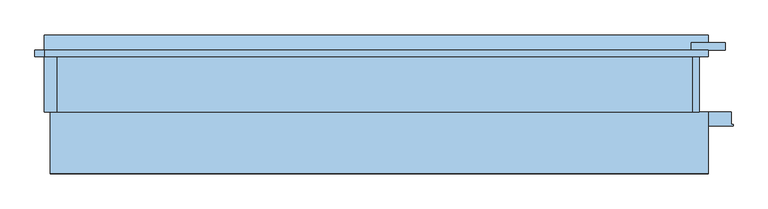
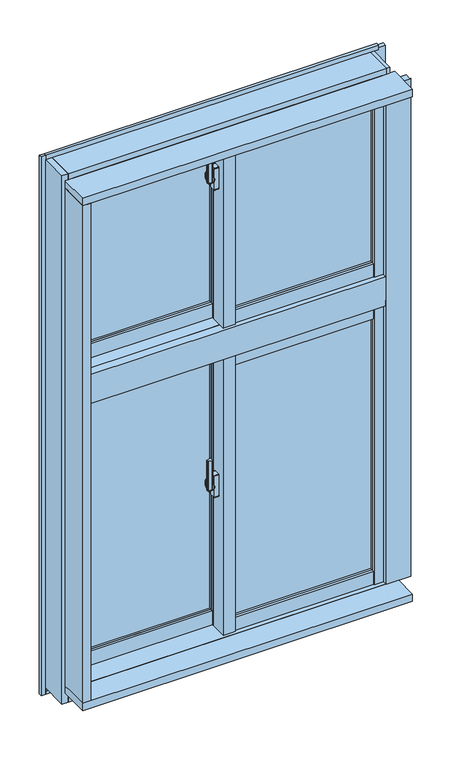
"""IFC4 building model written with IfcOpenShell, lengths in millimetres: window geometry, FNSⅡ100R_非防火_ALC枠_段窓 : 引違/引違."""

from ifc_helpers import new_model, si_unit, point, frame, frame_2d, origin, place, context, project, spatial, polyline, circle_curve, trimmed, segment, composite_curve, outline, extrude, faceted_brep, source, transform, mapped, element, save
from ifc_brep_helpers import plane_surface, cylinder_surface, revolved_surface, advanced_brep


def window_16896372(model_context):
    return source(origin(), model_context, "Body", "SolidModel", [
        extrude(outline(composite_curve([segment(polyline([(-39.0, 14.6), (-39.0, 6.4)]), True, "CONTINUOUS"), segment(trimmed(circle_curve(frame_2d((-41.0, 6.4)), 2.0), [point((-39.0, 6.4))], [point((-41.3606557, 4.4327869))], False, "CARTESIAN"), True, "CONTINUOUS"), segment(polyline([(-41.3606557, 4.4327869), (-52.3606557, 6.4494536)]), True, "CONTINUOUS"), segment(trimmed(circle_curve(frame_2d((-52.0, 8.4166667)), 2.0), [point((-52.3606557, 6.4494536))], [point((-54.0, 8.4166667))], False, "CARTESIAN"), True, "CONTINUOUS"), segment(polyline([(-54.0, 8.4166667), (-54.0, 12.5833333)]), True, "CONTINUOUS"), segment(trimmed(circle_curve(frame_2d((-52.0, 12.5833333)), 2.0), [point((-54.0, 12.5833333))], [point((-52.3606557, 14.5505464))], False, "CARTESIAN"), True, "CONTINUOUS"), segment(polyline([(-52.3606557, 14.5505464), (-41.3606557, 16.5672131)]), True, "CONTINUOUS"), segment(trimmed(circle_curve(frame_2d((-41.0, 14.6)), 2.0), [point((-41.3606557, 16.5672131))], [point((-39.0, 14.6))], False, "CARTESIAN"), True, "CONTINUOUS")], self_intersect=False)), frame((0.0, 0.0, 2440.0), z_axis=(0.0, 0.0, 1.0), x_axis=(1.0, 0.0, 0.0)), (0.0, 0.0, 1.0), 100.0),
        advanced_brep(
        [(-37.5, 18.8234285, 2471.7333311), (-45.5, 18.8234285, 2471.7333311), (-45.5, 18.4351999, 2470.2844424), (-39.0, 18.4351999, 2470.2844424), (-39.0, 16.6234666, 2463.5229616), (-37.5, 16.6234666, 2463.5229616), (-39.0, 16.6466117, 2429.3190372), (-45.5, 16.6466117, 2429.3190372), (-45.5, 16.907084, 2427.8418256), (-37.5, 16.907084, 2427.8418256), (-37.5, 15.4310745, 2436.2126915), (-39.0, 15.4310745, 2436.2126915)],
        [
            (0, 1),
            (1, 2),
            (2, 3),
            (3, 4),
            (4, 5),
            (5, 0),
            (6, 7),
            (7, 8),
            (8, 9),
            (9, 10),
            (10, 11),
            (11, 6),
            (0, 9, circle_curve(frame((-37.5, 13.0, 2450.0), z_axis=(-1.0, 0.0, 0.0), x_axis=(0.0, 0.25881904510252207, 0.965925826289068)), 22.5)),
            (8, 1, circle_curve(frame((-45.5, 13.0, 2450.0), z_axis=(1.0, 0.0, 0.0), x_axis=(0.0, 0.25881904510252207, 0.965925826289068)), 22.5)),
            (7, 2, circle_curve(frame((-45.5, 13.0, 2450.0), z_axis=(1.0, 0.0, 0.0), x_axis=(0.0, 0.25881904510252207, 0.965925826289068)), 21.0)),
            (6, 3, circle_curve(frame((-39.0, 13.0, 2450.0), z_axis=(1.0, 0.0, 0.0), x_axis=(0.0, 0.25881904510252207, 0.965925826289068)), 21.0)),
            (11, 4, circle_curve(frame((-39.0, 13.0, 2450.0), z_axis=(-1.0, 0.0, 0.0), x_axis=(0.0, -1.0, 0.0)), 14.0)),
            (5, 10, circle_curve(frame((-37.5, 13.0, 2450.0), z_axis=(1.0, 0.0, 0.0), x_axis=(0.0, -1.0, 0.0)), 14.0)),
        ],
        [
            plane_surface(frame((-43.5470497, 13.0, 2450.0), z_axis=(0.0, -0.965925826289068, 0.25881904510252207), x_axis=(0.0, 0.25881904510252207, 0.965925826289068))),
            plane_surface(frame((-43.5470497, 13.0, 2450.0), z_axis=(0.0, -0.9848077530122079, -0.17364817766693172), x_axis=(0.0, 0.17364817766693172, -0.9848077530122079))),
            cylinder_surface(frame((-43.5470497, 13.0, 2450.0), z_axis=(-1.0, 0.0, 0.0), x_axis=(0.0, 0.25881904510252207, 0.965925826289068)), 22.5),
            plane_surface(frame((-45.5, 13.0, 2450.0), z_axis=(-1.0, 0.0, 0.0), x_axis=(0.0, 0.25881904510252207, 0.965925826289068))),
            revolved_surface(polyline([(-45.5, 18.435199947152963, 2470.2844423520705), (-39.0, 18.435199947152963, 2470.2844423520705)]), (-43.5470497, 13.0, 2450.0), (-1.0, 0.0, 0.0)),
            plane_surface(frame((-39.0, 13.0, 2450.0), z_axis=(-1.0, 0.0, 0.0), x_axis=(0.0, 0.25881904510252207, 0.965925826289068))),
            plane_surface(frame((-37.5, 13.0, 2450.0), z_axis=(1.0, 0.0, 0.0), x_axis=(0.0, 0.25881904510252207, 0.965925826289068))),
            cylinder_surface(frame((-37.5, 13.0, 2450.0), z_axis=(-1.0, 0.0, 0.0), x_axis=(0.0, -1.0, 0.0)), 14.0),
        ],
        [
            (0, [[1, 2, 3, 4, 5, 6]]),
            (1, [[7, 8, 9, 10, 11, 12]]),
            (2, [[-1, 13, -9, 14]]),
            (3, [[-2, -14, -8, 15]]),
            (4, [[-3, -15, -7, 16]]),
            (5, [[-16, -12, 17, -4]]),
            (6, [[-13, -6, 18, -10]]),
            (7, [[-17, -11, -18, -5]]),
        ],
    ),
        extrude(outline(composite_curve([segment(trimmed(circle_curve(frame_2d((13.0, 2450.0)), 11.5), [point((24.5, 2450.0))], [point((1.5, 2450.0))], False, "CARTESIAN"), True, "CONTINUOUS"), segment(trimmed(circle_curve(frame_2d((13.0, 2450.0)), 11.5), [point((1.5, 2450.0))], [point((24.5, 2450.0))], False, "CARTESIAN"), True, "CONTINUOUS")], self_intersect=False)), frame((-37.5, 0.0, 0.0), z_axis=(1.0, 0.0, 0.0), x_axis=(0.0, 1.0, 0.0)), (0.0, 0.0, 1.0), 2.5),
        extrude(outline(composite_curve([segment(polyline([(4.0, 2487.5), (22.0, 2487.5)]), True, "CONTINUOUS"), segment(trimmed(circle_curve(frame_2d((22.0, 2485.5)), 2.0), [point((22.0, 2487.5))], [point((24.0, 2485.5))], False, "CARTESIAN"), True, "CONTINUOUS"), segment(polyline([(24.0, 2485.5), (24.0, 2414.5)]), True, "CONTINUOUS"), segment(trimmed(circle_curve(frame_2d((22.0, 2414.5)), 2.0), [point((24.0, 2414.5))], [point((22.0, 2412.5))], False, "CARTESIAN"), True, "CONTINUOUS"), segment(polyline([(22.0, 2412.5), (4.0, 2412.5)]), True, "CONTINUOUS"), segment(trimmed(circle_curve(frame_2d((4.0, 2414.5)), 2.0), [point((4.0, 2412.5))], [point((2.0, 2414.5))], False, "CARTESIAN"), True, "CONTINUOUS"), segment(polyline([(2.0, 2414.5), (2.0, 2485.5)]), True, "CONTINUOUS"), segment(trimmed(circle_curve(frame_2d((4.0, 2485.5)), 2.0), [point((2.0, 2485.5))], [point((4.0, 2487.5))], False, "CARTESIAN"), True, "CONTINUOUS")], self_intersect=False)), frame((-35.0, 0.0, 0.0), z_axis=(1.0, 0.0, 0.0), x_axis=(0.0, 1.0, 0.0)), (0.0, 0.0, 1.0), 15.0),
        extrude(outline(polyline([(20.0, 4.0), (468.0, 4.0), (468.0, -2.0), (20.0, -2.0), (20.0, 4.0)])), frame((0.0, 0.0, 1998.0), z_axis=(0.0, 0.0, 1.0), x_axis=(1.0, 0.0, 0.0)), (0.0, 0.0, 1.0), 562.0),
        extrude(outline(polyline([(20.0, 22.0), (468.0, 22.0), (468.0, 16.0), (20.0, 16.0), (20.0, 22.0)])), frame((0.0, 0.0, 1998.0), z_axis=(0.0, 0.0, 1.0), x_axis=(1.0, 0.0, 0.0)), (0.0, 0.0, 1.0), 562.0),
        extrude(outline(polyline([(-468.0, 62.0), (-20.0, 62.0), (-20.0, 56.0), (-468.0, 56.0), (-468.0, 62.0)])), frame((0.0, 0.0, 1998.0), z_axis=(0.0, 0.0, 1.0), x_axis=(1.0, 0.0, 0.0)), (0.0, 0.0, 1.0), 562.0),
        extrude(outline(polyline([(-468.0, 80.0), (-20.0, 80.0), (-20.0, 74.0), (-468.0, 74.0), (-468.0, 80.0)])), frame((0.0, 0.0, 1998.0), z_axis=(0.0, 0.0, 1.0), x_axis=(1.0, 0.0, 0.0)), (0.0, 0.0, 1.0), 562.0),
        faceted_brep([(-500.0, 59.0, 2600.0), (-489.5, 59.0, 2600.0), (-489.5, 46.0, 2600.0), (-468.0, 46.0, 2600.0), (-468.0, 88.0, 2600.0), (-500.0, 88.0, 2600.0), (-468.0, 59.0, 1910.0), (-500.0, 59.0, 1910.0), (-500.0, 88.0, 1910.0), (-468.0, 88.0, 1910.0), (-468.0, 59.0, 1950.0), (-489.5, 59.0, 1950.0), (-489.5, 46.0, 1950.0), (-468.0, 46.0, 1950.0)], [[[0, 1, 2, 3, 4, 5]], [[6, 7, 8, 9]], [[1, 0, 7, 6, 10, 11]], [[2, 1, 11, 12]], [[3, 2, 12, 13]], [[4, 3, 13, 10, 6, 9]], [[5, 4, 9, 8]], [[7, 0, 5, 8]], [[11, 10, 13, 12]]]),
        faceted_brep([(-20.0, 45.5, 2600.0), (-1.8, 45.5, 2600.0), (-1.8, 33.1, 2600.0), (20.0, 33.1, 2600.0), (20.0, 88.0, 2600.0), (-20.0, 88.0, 2600.0), (-20.0, 88.0, 1910.0), (20.0, 88.0, 1910.0), (20.0, 59.0, 1910.0), (-20.0, 59.0, 1910.0), (-20.0, 45.5, 1950.0), (-1.8, 45.5, 1950.0), (-1.8, 33.1, 1950.0), (20.0, 33.1, 1950.0), (20.0, 59.0, 1950.0), (-20.0, 59.0, 1950.0)], [[[0, 1, 2, 3, 4, 5]], [[6, 7, 8, 9]], [[1, 0, 10, 11]], [[2, 1, 11, 12]], [[3, 2, 12, 13]], [[4, 3, 13, 14, 8, 7]], [[5, 4, 7, 6]], [[0, 5, 6, 9, 15, 10]], [[14, 15, 9, 8]], [[15, 14, 13, 12, 11, 10]]]),
        extrude(outline(polyline([(-20.0, 33.1), (-15.0, 33.1), (-15.0, -12.0), (15.0, -12.0), (15.0, -8.0), (20.0, -8.0), (20.0, -20.0), (-20.0, -20.0), (-20.0, 33.1)])), frame((0.0, 0.0, 1950.0), z_axis=(0.0, 0.0, 1.0), x_axis=(1.0, 0.0, 0.0)), (0.0, 0.0, 1.0), 650.0),
        extrude(outline(polyline([(-15.0, 33.1), (20.0, 33.1), (20.0, -8.0), (15.0, -8.0), (15.0, -12.0), (-15.0, -12.0), (-15.0, 33.1)])), frame((0.0, 0.0, 1950.0), z_axis=(0.0, 0.0, 1.0), x_axis=(1.0, 0.0, 0.0)), (0.0, 0.0, 1.0), 650.0),
        extrude(outline(polyline([(468.0, -20.0), (468.0, -12.0), (489.5, -12.0), (489.5, 1.0), (497.0, 1.0), (497.0, -20.0), (468.0, -20.0)])), frame((0.0, 0.0, 1953.0), z_axis=(0.0, 0.0, 1.0), x_axis=(1.0, 0.0, 0.0)), (0.0, 0.0, 1.0), 647.0),
        extrude(outline(polyline([(468.0, 30.0), (500.0, 30.0), (500.0, 1.0), (489.5, 1.0), (489.5, -12.0), (468.0, -12.0), (468.0, 30.0)])), frame((0.0, 0.0, 1950.0), z_axis=(0.0, 0.0, 1.0), x_axis=(1.0, 0.0, 0.0)), (0.0, 0.0, 1.0), 650.0),
        extrude(outline(polyline([(-1.85, 45.5), (-1.85, 38.0), (-20.0, 38.0), (-20.0, 45.5), (-1.85, 45.5)])), frame((0.0, 0.0, 1950.0), z_axis=(0.0, 0.0, 1.0), x_axis=(1.0, 0.0, 0.0)), (0.0, 0.0, 1.0), 650.0),
        extrude(outline(polyline([(-497.0, 59.0), (-489.5, 59.0), (-489.5, 46.0), (-468.0, 46.0), (-468.0, 38.0), (-497.0, 38.0), (-497.0, 59.0)])), frame((0.0, 0.0, 1950.0), z_axis=(0.0, 0.0, 1.0), x_axis=(1.0, 0.0, 0.0)), (0.0, 0.0, 1.0), 650.0),
        extrude(outline(polyline([(-18.0, 1953.0), (-18.0, 1998.0), (-10.0, 1998.0), (-10.0, 1975.5), (1.0, 1975.5), (1.0, 1953.0), (-18.0, 1953.0)])), frame((20.0, 0.0, 0.0), z_axis=(1.0, 0.0, 0.0), x_axis=(0.0, 1.0, 0.0)), (0.0, 0.0, 1.0), 448.0),
        extrude(outline(polyline([(30.0, 1950.0), (1.0, 1950.0), (1.0, 1975.5), (-10.0, 1975.5), (-10.0, 1998.0), (30.0, 1998.0), (30.0, 1950.0)])), frame((20.0, 0.0, 0.0), z_axis=(1.0, 0.0, 0.0), x_axis=(0.0, 1.0, 0.0)), (0.0, 0.0, 1.0), 448.0),
        extrude(outline(polyline([(40.0, 1998.0), (48.0, 1998.0), (48.0, 1975.5), (59.0, 1975.5), (59.0, 1950.0), (40.0, 1950.0), (40.0, 1998.0)])), frame((-468.0, 0.0, 0.0), z_axis=(1.0, 0.0, 0.0), x_axis=(0.0, 1.0, 0.0)), (0.0, 0.0, 1.0), 448.0),
        extrude(outline(polyline([(88.0, 1910.0), (59.0, 1910.0), (59.0, 1975.5), (48.0, 1975.5), (48.0, 1998.0), (88.0, 1998.0), (88.0, 1910.0)])), frame((-468.0, 0.0, 0.0), z_axis=(1.0, 0.0, 0.0), x_axis=(0.0, 1.0, 0.0)), (0.0, 0.0, 1.0), 448.0),
        extrude(outline(polyline([(3.0, 2580.5), (-10.0, 2580.5), (-10.0, 2560.0), (-18.0, 2560.0), (-18.0, 2600.0), (3.0, 2600.0), (3.0, 2580.5)])), frame((20.0, 0.0, 0.0), z_axis=(1.0, 0.0, 0.0), x_axis=(0.0, 1.0, 0.0)), (0.0, 0.0, 1.0), 448.0),
        extrude(outline(polyline([(30.0, 2600.0), (30.0, 2560.0), (-10.0, 2560.0), (-10.0, 2580.5), (3.0, 2580.5), (3.0, 2600.0), (30.0, 2600.0)])), frame((20.0, 0.0, 0.0), z_axis=(1.0, 0.0, 0.0), x_axis=(0.0, 1.0, 0.0)), (0.0, 0.0, 1.0), 448.0),
        extrude(outline(polyline([(61.0, 2580.5), (48.0, 2580.5), (48.0, 2560.0), (40.0, 2560.0), (40.0, 2600.0), (61.0, 2600.0), (61.0, 2580.5)])), frame((-468.0, 0.0, 0.0), z_axis=(1.0, 0.0, 0.0), x_axis=(0.0, 1.0, 0.0)), (0.0, 0.0, 1.0), 448.0),
        extrude(outline(polyline([(88.0, 2600.0), (88.0, 2560.0), (48.0, 2560.0), (48.0, 2580.5), (61.0, 2580.5), (61.0, 2600.0), (88.0, 2600.0)])), frame((-468.0, 0.0, 0.0), z_axis=(1.0, 0.0, 0.0), x_axis=(0.0, 1.0, 0.0)), (0.0, 0.0, 1.0), 448.0),
        faceted_brep([(500.0, -30.0, 900.0), (500.0, -5.5, 900.0), (515.0, -5.5, 900.0), (515.0, -10.0, 900.0), (503.0, -10.0, 900.0), (503.0, -30.0, 900.0), (500.0, -30.0, 1870.0), (500.0, -5.5, 1870.0), (515.0, -5.5, 1870.0), (515.0, -10.0, 1870.0), (503.0, -10.0, 1870.0), (503.0, -30.0, 1870.0)], [[[0, 1, 2, 3, 4, 5]], [[1, 0, 6, 7]], [[2, 1, 7, 8]], [[3, 2, 8, 9]], [[4, 3, 9, 10]], [[5, 4, 10, 11]], [[0, 5, 11, 6]], [[6, 11, 10, 9, 8, 7]]]),
        faceted_brep([(500.0, -10.0, 2620.0), (500.0, -5.5, 2620.0), (500.0, -5.5, 1950.0), (500.0, -30.0, 1950.0), (500.0, -30.0, 2603.0), (500.0, -10.0, 2603.0), (515.0, -5.5, 2620.0), (515.0, -5.5, 1950.0), (515.0, -10.0, 2620.0), (515.0, -10.0, 1950.0), (503.0, -10.0, 2603.0), (503.0, -10.0, 1950.0), (503.0, -30.0, 2603.0), (503.0, -30.0, 1950.0)], [[[0, 1, 2, 3, 4, 5]], [[1, 6, 7, 2]], [[6, 8, 9, 7]], [[5, 10, 11, 9, 8, 0]], [[10, 12, 13, 11]], [[12, 4, 3, 13]], [[8, 6, 1, 0]], [[10, 5, 4, 12]], [[13, 3, 2, 7, 9, 11]]]),
        faceted_brep([(515.0, 90.0, 840.0), (515.0, 90.0, 849.0), (515.0, 56.0, 849.0), (515.0, 56.0, 884.0), (515.0, -10.0, 884.0), (515.0, -10.0, 840.0), (-515.0, 90.0, 840.0), (-515.0, 90.0, 849.0), (-515.0, 56.0, 849.0), (-515.0, 56.0, 884.0), (-515.0, -10.0, 884.0), (500.0, 17.25, 884.0), (500.0, -1.2, 884.0), (-15.0, -1.2, 884.0), (-15.0, 17.25, 884.0), (-515.0, -10.0, 840.0), (500.0, -1.2, 900.0), (500.0, 17.25, 900.0), (-15.0, -1.2, 900.0), (-15.0, 17.25, 900.0)], [[[0, 1, 2, 3, 4, 5]], [[1, 0, 6, 7]], [[2, 1, 7, 8]], [[3, 2, 8, 9]], [[4, 3, 9, 10], [11, 12, 13, 14]], [[5, 4, 10, 15]], [[0, 5, 15, 6]], [[6, 15, 10, 9, 8, 7]], [[16, 12, 11, 17]], [[12, 16, 18, 13]], [[18, 19, 14, 13]], [[17, 11, 14, 19]], [[16, 17, 19, 18]]]),
        faceted_brep([(500.0, -1.2, 1950.0), (500.0, -1.2, 1934.0), (500.0, 17.25, 1934.0), (500.0, 17.25, 1950.0), (-15.0, -1.2, 1950.0), (-15.0, 17.25, 1950.0), (-15.0, 17.25, 1934.0), (-15.0, -1.2, 1934.0)], [[[0, 1, 2, 3]], [[4, 5, 6, 7]], [[1, 0, 4, 7]], [[2, 1, 7, 6]], [[3, 2, 6, 5]], [[0, 3, 5, 4]]]),
        faceted_brep([(-515.0, -10.0, 900.0), (-515.0, 56.0, 900.0), (-500.0, 56.0, 900.0), (-500.0, -30.0, 900.0), (-503.0, -30.0, 900.0), (-503.0, -10.0, 900.0), (-515.0, -10.0, 1870.0), (-515.0, 56.0, 1870.0), (-500.0, 56.0, 1870.0), (-500.0, -30.0, 1870.0), (-503.0, -30.0, 1870.0), (-503.0, -10.0, 1870.0)], [[[0, 1, 2, 3, 4, 5]], [[1, 0, 6, 7]], [[2, 1, 7, 8]], [[3, 2, 8, 9]], [[4, 3, 9, 10]], [[5, 4, 10, 11]], [[0, 5, 11, 6]], [[6, 11, 10, 9, 8, 7]]]),
        faceted_brep([(-515.0, -10.0, 2620.0), (-515.0, 56.0, 2620.0), (-515.0, 56.0, 1950.0), (-515.0, -10.0, 1950.0), (-500.0, 56.0, 2620.0), (-500.0, 56.0, 1950.0), (-500.0, -10.0, 2620.0), (-500.0, -10.0, 2603.0), (-500.0, -30.0, 2603.0), (-500.0, -30.0, 1950.0), (-503.0, -30.0, 2603.0), (-503.0, -30.0, 1950.0), (-503.0, -10.0, 2603.0), (-503.0, -10.0, 1950.0)], [[[0, 1, 2, 3]], [[1, 4, 5, 2]], [[4, 6, 7, 8, 9, 5]], [[8, 10, 11, 9]], [[10, 12, 13, 11]], [[12, 7, 6, 0, 3, 13]], [[4, 1, 0, 6]], [[7, 12, 10, 8]], [[13, 3, 2, 5, 9, 11]]]),
        faceted_brep([(-535.0, 90.0, 840.0), (-515.0, 90.0, 840.0), (-515.0, -10.0, 840.0), (-535.0, -10.0, 840.0), (-535.0, 90.0, 2645.0), (-515.0, 90.0, 2645.0), (-515.0, 90.0, 2600.0), (-500.0, 90.0, 2600.0), (-500.0, 90.0, 1899.0), (-515.0, 90.0, 1899.0), (-515.0, 90.0, 1850.0), (-500.0, 90.0, 1850.0), (-500.0, 90.0, 849.0), (-515.0, 90.0, 849.0), (-515.0, -10.0, 2645.0), (-515.0, 56.0, 849.0), (-515.0, 56.0, 1850.0), (-515.0, 56.0, 1899.0), (-515.0, 56.0, 2600.0), (-535.0, -10.0, 2645.0), (-500.0, 56.0, 849.0), (-500.0, 56.0, 1850.0), (-500.0, 56.0, 2600.0), (-500.0, 56.0, 1899.0)], [[[0, 1, 2, 3]], [[4, 5, 6, 7, 8, 9, 10, 11, 12, 13, 1, 0]], [[5, 14, 2, 1, 13, 15, 16, 10, 9, 17, 18, 6]], [[14, 19, 3, 2]], [[19, 4, 0, 3]], [[12, 20, 15, 13]], [[21, 16, 15, 20]], [[11, 21, 20, 12]], [[4, 19, 14, 5]], [[11, 10, 16, 21]], [[7, 6, 18, 22]], [[8, 23, 17, 9]], [[22, 18, 17, 23]], [[7, 22, 23, 8]]]),
        faceted_brep([(515.0, -10.0, 840.0), (515.0, 90.0, 840.0), (525.0, 90.0, 840.0), (525.0, -10.0, 840.0), (515.0, -10.0, 2645.0), (515.0, 90.0, 2645.0), (515.0, 90.0, 2600.0), (515.0, -5.5, 2600.0), (515.0, -5.5, 1899.0), (515.0, 90.0, 1899.0), (515.0, 90.0, 1850.0), (515.0, -5.5, 1850.0), (515.0, -5.5, 849.0), (515.0, 90.0, 849.0), (525.0, 90.0, 2645.0), (500.0, 90.0, 849.0), (500.0, 90.0, 1850.0), (500.0, 90.0, 1899.0), (500.0, 90.0, 2600.0), (525.0, -10.0, 2645.0), (500.0, -5.5, 849.0), (500.0, -5.5, 1850.0), (500.0, -5.5, 2600.0), (500.0, -5.5, 1899.0)], [[[0, 1, 2, 3]], [[4, 5, 6, 7, 8, 9, 10, 11, 12, 13, 1, 0]], [[5, 14, 2, 1, 13, 15, 16, 10, 9, 17, 18, 6]], [[14, 19, 3, 2]], [[19, 4, 0, 3]], [[20, 15, 13, 12]], [[21, 16, 15, 20]], [[11, 21, 20, 12]], [[4, 19, 14, 5]], [[21, 11, 10, 16]], [[22, 7, 6, 18]], [[23, 17, 9, 8]], [[7, 22, 23, 8]], [[22, 18, 17, 23]]]),
        faceted_brep([(503.0, -30.0, 900.0), (503.0, -30.0, 897.0), (503.0, -10.0, 897.0), (503.0, -10.0, 884.0), (503.0, -5.5, 884.0), (503.0, -5.5, 900.0), (-503.0, -10.0, 884.0), (-503.0, -10.0, 897.0), (-503.0, -30.0, 897.0), (-503.0, -30.0, 900.0), (-503.0, -1.2, 900.0), (-503.0, -1.2, 884.0), (500.0, -5.5, 900.0), (500.0, -1.2, 900.0), (-15.0, -1.2, 900.0), (-15.0, 56.0, 900.0), (-500.0, 56.0, 900.0), (-500.0, -1.2, 900.0), (-500.0, -1.2, 884.0), (500.0, -1.2, 884.0), (-15.0, -1.2, 884.0), (-500.0, 56.0, 884.0), (-15.0, 56.0, 884.0), (500.0, -5.5, 884.0)], [[[0, 1, 2, 3, 4, 5]], [[6, 7, 8, 9, 10, 11]], [[3, 2, 7, 6]], [[2, 1, 8, 7]], [[1, 0, 9, 8]], [[10, 9, 0, 5, 12, 13, 14, 15, 16, 17]], [[11, 10, 17, 18]], [[13, 19, 20, 14]], [[6, 11, 18, 21, 22, 20, 19, 23, 4, 3]], [[12, 23, 19, 13]], [[23, 12, 5, 4]], [[15, 14, 20, 22]], [[16, 21, 18, 17]], [[15, 22, 21, 16]]]),
        faceted_brep([(500.0, 11.9, 2600.0), (500.0, 11.9, 2625.0), (500.0, -10.0, 2625.0), (500.0, -10.0, 2603.0), (500.0, -30.0, 2603.0), (500.0, -30.0, 2600.0), (-500.0, 11.9, 2600.0), (-500.0, -30.0, 2600.0), (-500.0, -30.0, 2603.0), (-500.0, -10.0, 2603.0), (-500.0, -10.0, 2625.0), (-500.0, 11.9, 2625.0)], [[[0, 1, 2, 3, 4, 5]], [[6, 7, 8, 9, 10, 11]], [[1, 0, 6, 11]], [[2, 1, 11, 10]], [[3, 2, 10, 9]], [[4, 3, 9, 8]], [[5, 4, 8, 7]], [[0, 5, 7, 6]]]),
        faceted_brep([(500.0, 11.9, 1875.0), (500.0, -10.0, 1875.0), (500.0, -10.0, 1934.0), (500.0, -1.2, 1934.0), (500.0, -1.2, 1950.0), (500.0, -30.0, 1950.0), (500.0, -30.0, 1870.0), (500.0, -30.0, 1850.0), (500.0, 11.9, 1850.0), (500.0, 11.9, 1870.0), (-500.0, 11.9, 1850.0), (-500.0, -30.0, 1850.0), (-500.0, -30.0, 1870.0), (-500.0, -30.0, 1950.0), (-500.0, -1.2, 1950.0), (-500.0, -1.2, 1934.0), (-500.0, -10.0, 1934.0), (-500.0, -10.0, 1875.0), (-500.0, 11.9, 1875.0), (-500.0, 11.9, 1870.0)], [[[0, 1, 2, 3, 4, 5, 6, 7, 8, 9]], [[10, 11, 12, 13, 14, 15, 16, 17, 18, 19]], [[8, 10, 19, 18, 0, 9]], [[1, 0, 18, 17]], [[5, 13, 12, 11, 7, 6]], [[8, 7, 11, 10]], [[2, 1, 17, 16]], [[3, 2, 16, 15]], [[4, 3, 15, 14]], [[5, 4, 14, 13]]]),
        extrude(outline(polyline([(-15.0, 60.3), (-15.0, 11.9), (-500.0, 11.9), (-500.0, 60.3), (-15.0, 60.3)])), frame((0.0, 0.0, 2600.0), z_axis=(0.0, 0.0, 1.0), x_axis=(1.0, 0.0, 0.0)), (0.0, 0.0, 1.0), 25.0),
        extrude(outline(polyline([(-15.0, 56.0), (-15.0, -1.2), (-500.0, -1.2), (-500.0, 56.0), (-15.0, 56.0)])), frame((0.0, 0.0, 1934.0), z_axis=(0.0, 0.0, 1.0), x_axis=(1.0, 0.0, 0.0)), (0.0, 0.0, 1.0), 16.0),
        extrude(outline(polyline([(-15.0, 60.3), (-15.0, 11.9), (-500.0, 11.9), (-500.0, 60.3), (-15.0, 60.3)])), frame((0.0, 0.0, 1850.0), z_axis=(0.0, 0.0, 1.0), x_axis=(1.0, 0.0, 0.0)), (0.0, 0.0, 1.0), 25.0),
        faceted_brep([(515.0, 90.0, 2600.0), (515.0, 90.0, 2645.0), (515.0, -10.0, 2645.0), (515.0, -10.0, 2625.0), (515.0, 60.3, 2625.0), (515.0, 60.3, 2600.0), (-515.0, 90.0, 2600.0), (-515.0, 60.3, 2600.0), (-515.0, 60.3, 2625.0), (-515.0, -10.0, 2625.0), (-515.0, -10.0, 2645.0), (-515.0, 90.0, 2645.0), (-15.0, 60.3, 2625.0), (-15.0, 11.9, 2625.0), (500.0, 11.9, 2625.0), (500.0, 60.3, 2625.0), (500.0, 60.3, 2600.0), (-15.0, 60.3, 2600.0), (500.0, 11.9, 2600.0), (-15.0, 11.9, 2600.0)], [[[0, 1, 2, 3, 4, 5]], [[6, 7, 8, 9, 10, 11]], [[1, 0, 6, 11]], [[2, 1, 11, 10]], [[3, 2, 10, 9]], [[4, 3, 9, 8, 12, 13, 14, 15]], [[5, 4, 15, 16]], [[8, 7, 17, 12]], [[0, 5, 16, 18, 19, 17, 7, 6]], [[14, 18, 16, 15]], [[17, 19, 13, 12]], [[18, 14, 13, 19]]]),
        faceted_brep([(515.0, 90.0, 1850.0), (515.0, 90.0, 1899.0), (515.0, 56.0, 1899.0), (515.0, 56.0, 1934.0), (515.0, -10.0, 1934.0), (515.0, -10.0, 1875.0), (515.0, 60.3, 1875.0), (515.0, 60.3, 1850.0), (-515.0, 90.0, 1850.0), (-515.0, 60.3, 1850.0), (-515.0, 60.3, 1875.0), (-515.0, -10.0, 1875.0), (-515.0, -10.0, 1934.0), (-515.0, 56.0, 1934.0), (-515.0, 56.0, 1899.0), (-515.0, 90.0, 1899.0), (500.0, 11.9, 1850.0), (500.0, 60.3, 1850.0), (500.0, 60.3, 1870.0), (500.0, 60.3, 1875.0), (500.0, 11.9, 1875.0), (500.0, 11.9, 1870.0), (-15.0, 60.3, 1850.0), (-15.0, 11.9, 1850.0), (-15.0, 11.9, 1875.0), (-15.0, 60.3, 1875.0)], [[[0, 1, 2, 3, 4, 5, 6, 7]], [[8, 9, 10, 11, 12, 13, 14, 15]], [[16, 17, 18, 19, 20, 21]], [[22, 23, 24, 25]], [[1, 0, 8, 15]], [[2, 1, 15, 14]], [[3, 2, 14, 13]], [[4, 3, 13, 12]], [[5, 4, 12, 11]], [[6, 5, 11, 10, 25, 24, 20, 19]], [[7, 6, 19, 18, 17]], [[10, 9, 22, 25]], [[0, 7, 17, 16, 23, 22, 9, 8]], [[24, 23, 16, 21, 20]]]),
        extrude(outline(composite_curve([segment(polyline([(-39.0, 14.6), (-39.0, 6.4)]), True, "CONTINUOUS"), segment(trimmed(circle_curve(frame_2d((-41.0, 6.4)), 2.0), [point((-39.0, 6.4))], [point((-41.3606557, 4.4327869))], False, "CARTESIAN"), True, "CONTINUOUS"), segment(polyline([(-41.3606557, 4.4327869), (-52.3606557, 6.4494536)]), True, "CONTINUOUS"), segment(trimmed(circle_curve(frame_2d((-52.0, 8.4166667)), 2.0), [point((-52.3606557, 6.4494536))], [point((-54.0, 8.4166667))], False, "CARTESIAN"), True, "CONTINUOUS"), segment(polyline([(-54.0, 8.4166667), (-54.0, 12.5833333)]), True, "CONTINUOUS"), segment(trimmed(circle_curve(frame_2d((-52.0, 12.5833333)), 2.0), [point((-54.0, 12.5833333))], [point((-52.3606557, 14.5505464))], False, "CARTESIAN"), True, "CONTINUOUS"), segment(polyline([(-52.3606557, 14.5505464), (-41.3606557, 16.5672131)]), True, "CONTINUOUS"), segment(trimmed(circle_curve(frame_2d((-41.0, 14.6)), 2.0), [point((-41.3606557, 16.5672131))], [point((-39.0, 14.6))], False, "CARTESIAN"), True, "CONTINUOUS")], self_intersect=False)), frame((0.0, 0.0, 1390.0), z_axis=(0.0, 0.0, 1.0), x_axis=(1.0, 0.0, 0.0)), (0.0, 0.0, 1.0), 100.0),
        advanced_brep(
        [(-37.5, 18.8234285, 1421.7333311), (-45.5, 18.8234285, 1421.7333311), (-45.5, 18.4351999, 1420.2844424), (-39.0, 18.4351999, 1420.2844424), (-39.0, 16.6234666, 1413.5229616), (-37.5, 16.6234666, 1413.5229616), (-39.0, 16.6466117, 1379.3190372), (-45.5, 16.6466117, 1379.3190372), (-45.5, 16.907084, 1377.8418256), (-37.5, 16.907084, 1377.8418256), (-37.5, 15.4310745, 1386.2126915), (-39.0, 15.4310745, 1386.2126915)],
        [
            (0, 1),
            (1, 2),
            (2, 3),
            (3, 4),
            (4, 5),
            (5, 0),
            (6, 7),
            (7, 8),
            (8, 9),
            (9, 10),
            (10, 11),
            (11, 6),
            (0, 9, circle_curve(frame((-37.5, 13.0, 1400.0), z_axis=(-1.0, 0.0, 0.0), x_axis=(0.0, 0.25881904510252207, 0.965925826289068)), 22.5)),
            (8, 1, circle_curve(frame((-45.5, 13.0, 1400.0), z_axis=(1.0, 0.0, 0.0), x_axis=(0.0, 0.25881904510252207, 0.965925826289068)), 22.5)),
            (7, 2, circle_curve(frame((-45.5, 13.0, 1400.0), z_axis=(1.0, 0.0, 0.0), x_axis=(0.0, 0.25881904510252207, 0.965925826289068)), 21.0)),
            (6, 3, circle_curve(frame((-39.0, 13.0, 1400.0), z_axis=(1.0, 0.0, 0.0), x_axis=(0.0, 0.25881904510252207, 0.965925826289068)), 21.0)),
            (11, 4, circle_curve(frame((-39.0, 13.0, 1400.0), z_axis=(-1.0, 0.0, 0.0), x_axis=(0.0, -1.0, 0.0)), 14.0)),
            (5, 10, circle_curve(frame((-37.5, 13.0, 1400.0), z_axis=(1.0, 0.0, 0.0), x_axis=(0.0, -1.0, 0.0)), 14.0)),
        ],
        [
            plane_surface(frame((-43.5470497, 13.0, 1400.0), z_axis=(0.0, -0.965925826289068, 0.25881904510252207), x_axis=(0.0, 0.25881904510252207, 0.965925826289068))),
            plane_surface(frame((-43.5470497, 13.0, 1400.0), z_axis=(0.0, -0.9848077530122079, -0.17364817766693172), x_axis=(0.0, 0.17364817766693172, -0.9848077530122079))),
            cylinder_surface(frame((-43.5470497, 13.0, 1400.0), z_axis=(-1.0, 0.0, 0.0), x_axis=(0.0, 0.25881904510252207, 0.965925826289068)), 22.5),
            plane_surface(frame((-45.5, 13.0, 1400.0), z_axis=(-1.0, 0.0, 0.0), x_axis=(0.0, 0.25881904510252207, 0.965925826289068))),
            revolved_surface(polyline([(-45.5, 18.435199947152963, 1420.2844423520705), (-39.0, 18.435199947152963, 1420.2844423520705)]), (-43.5470497, 13.0, 1400.0), (-1.0, 0.0, 0.0)),
            plane_surface(frame((-39.0, 13.0, 1400.0), z_axis=(-1.0, 0.0, 0.0), x_axis=(0.0, 0.25881904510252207, 0.965925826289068))),
            plane_surface(frame((-37.5, 13.0, 1400.0), z_axis=(1.0, 0.0, 0.0), x_axis=(0.0, 0.25881904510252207, 0.965925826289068))),
            cylinder_surface(frame((-37.5, 13.0, 1400.0), z_axis=(-1.0, 0.0, 0.0), x_axis=(0.0, -1.0, 0.0)), 14.0),
        ],
        [
            (0, [[1, 2, 3, 4, 5, 6]]),
            (1, [[7, 8, 9, 10, 11, 12]]),
            (2, [[-1, 13, -9, 14]]),
            (3, [[-2, -14, -8, 15]]),
            (4, [[-3, -15, -7, 16]]),
            (5, [[-16, -12, 17, -4]]),
            (6, [[-13, -6, 18, -10]]),
            (7, [[-17, -11, -18, -5]]),
        ],
    ),
        extrude(outline(composite_curve([segment(trimmed(circle_curve(frame_2d((13.0, 1400.0)), 11.5), [point((24.5, 1400.0))], [point((1.5, 1400.0))], False, "CARTESIAN"), True, "CONTINUOUS"), segment(trimmed(circle_curve(frame_2d((13.0, 1400.0)), 11.5), [point((1.5, 1400.0))], [point((24.5, 1400.0))], False, "CARTESIAN"), True, "CONTINUOUS")], self_intersect=False)), frame((-37.5, 0.0, 0.0), z_axis=(1.0, 0.0, 0.0), x_axis=(0.0, 1.0, 0.0)), (0.0, 0.0, 1.0), 2.5),
        extrude(outline(composite_curve([segment(polyline([(4.0, 1437.5), (22.0, 1437.5)]), True, "CONTINUOUS"), segment(trimmed(circle_curve(frame_2d((22.0, 1435.5)), 2.0), [point((22.0, 1437.5))], [point((24.0, 1435.5))], False, "CARTESIAN"), True, "CONTINUOUS"), segment(polyline([(24.0, 1435.5), (24.0, 1364.5)]), True, "CONTINUOUS"), segment(trimmed(circle_curve(frame_2d((22.0, 1364.5)), 2.0), [point((24.0, 1364.5))], [point((22.0, 1362.5))], False, "CARTESIAN"), True, "CONTINUOUS"), segment(polyline([(22.0, 1362.5), (4.0, 1362.5)]), True, "CONTINUOUS"), segment(trimmed(circle_curve(frame_2d((4.0, 1364.5)), 2.0), [point((4.0, 1362.5))], [point((2.0, 1364.5))], False, "CARTESIAN"), True, "CONTINUOUS"), segment(polyline([(2.0, 1364.5), (2.0, 1435.5)]), True, "CONTINUOUS"), segment(trimmed(circle_curve(frame_2d((4.0, 1435.5)), 2.0), [point((2.0, 1435.5))], [point((4.0, 1437.5))], False, "CARTESIAN"), True, "CONTINUOUS")], self_intersect=False)), frame((-35.0, 0.0, 0.0), z_axis=(1.0, 0.0, 0.0), x_axis=(0.0, 1.0, 0.0)), (0.0, 0.0, 1.0), 15.0),
        extrude(outline(polyline([(20.0, 4.0), (468.0, 4.0), (468.0, -2.0), (20.0, -2.0), (20.0, 4.0)])), frame((0.0, 0.0, 948.0), z_axis=(0.0, 0.0, 1.0), x_axis=(1.0, 0.0, 0.0)), (0.0, 0.0, 1.0), 862.0),
        extrude(outline(polyline([(20.0, 22.0), (468.0, 22.0), (468.0, 16.0), (20.0, 16.0), (20.0, 22.0)])), frame((0.0, 0.0, 948.0), z_axis=(0.0, 0.0, 1.0), x_axis=(1.0, 0.0, 0.0)), (0.0, 0.0, 1.0), 862.0),
        extrude(outline(polyline([(-468.0, 62.0), (-20.0, 62.0), (-20.0, 56.0), (-468.0, 56.0), (-468.0, 62.0)])), frame((0.0, 0.0, 948.0), z_axis=(0.0, 0.0, 1.0), x_axis=(1.0, 0.0, 0.0)), (0.0, 0.0, 1.0), 862.0),
        extrude(outline(polyline([(-468.0, 80.0), (-20.0, 80.0), (-20.0, 74.0), (-468.0, 74.0), (-468.0, 80.0)])), frame((0.0, 0.0, 948.0), z_axis=(0.0, 0.0, 1.0), x_axis=(1.0, 0.0, 0.0)), (0.0, 0.0, 1.0), 862.0),
        faceted_brep([(-500.0, 59.0, 1850.0), (-489.5, 59.0, 1850.0), (-489.5, 46.0, 1850.0), (-468.0, 46.0, 1850.0), (-468.0, 88.0, 1850.0), (-500.0, 88.0, 1850.0), (-468.0, 59.0, 860.0), (-500.0, 59.0, 860.0), (-500.0, 88.0, 860.0), (-468.0, 88.0, 860.0), (-468.0, 59.0, 900.0), (-489.5, 59.0, 900.0), (-489.5, 46.0, 900.0), (-468.0, 46.0, 900.0)], [[[0, 1, 2, 3, 4, 5]], [[6, 7, 8, 9]], [[1, 0, 7, 6, 10, 11]], [[2, 1, 11, 12]], [[3, 2, 12, 13]], [[4, 3, 13, 10, 6, 9]], [[5, 4, 9, 8]], [[7, 0, 5, 8]], [[11, 10, 13, 12]]]),
        faceted_brep([(-20.0, 45.5, 1850.0), (-1.8, 45.5, 1850.0), (-1.8, 33.1, 1850.0), (20.0, 33.1, 1850.0), (20.0, 88.0, 1850.0), (-20.0, 88.0, 1850.0), (-20.0, 88.0, 860.0), (20.0, 88.0, 860.0), (20.0, 59.0, 860.0), (-20.0, 59.0, 860.0), (-20.0, 45.5, 900.0), (-1.8, 45.5, 900.0), (-1.8, 33.1, 900.0), (20.0, 33.1, 900.0), (20.0, 59.0, 900.0), (-20.0, 59.0, 900.0)], [[[0, 1, 2, 3, 4, 5]], [[6, 7, 8, 9]], [[1, 0, 10, 11]], [[2, 1, 11, 12]], [[3, 2, 12, 13]], [[4, 3, 13, 14, 8, 7]], [[5, 4, 7, 6]], [[0, 5, 6, 9, 15, 10]], [[14, 15, 9, 8]], [[15, 14, 13, 12, 11, 10]]]),
        extrude(outline(polyline([(-20.0, 33.1), (-15.0, 33.1), (-15.0, -12.0), (15.0, -12.0), (15.0, -8.0), (20.0, -8.0), (20.0, -20.0), (-20.0, -20.0), (-20.0, 33.1)])), frame((0.0, 0.0, 900.0), z_axis=(0.0, 0.0, 1.0), x_axis=(1.0, 0.0, 0.0)), (0.0, 0.0, 1.0), 950.0),
        extrude(outline(polyline([(-15.0, 33.1), (20.0, 33.1), (20.0, -8.0), (15.0, -8.0), (15.0, -12.0), (-15.0, -12.0), (-15.0, 33.1)])), frame((0.0, 0.0, 900.0), z_axis=(0.0, 0.0, 1.0), x_axis=(1.0, 0.0, 0.0)), (0.0, 0.0, 1.0), 950.0),
        extrude(outline(polyline([(468.0, -20.0), (468.0, -12.0), (489.5, -12.0), (489.5, 1.0), (497.0, 1.0), (497.0, -20.0), (468.0, -20.0)])), frame((0.0, 0.0, 903.0), z_axis=(0.0, 0.0, 1.0), x_axis=(1.0, 0.0, 0.0)), (0.0, 0.0, 1.0), 947.0),
        extrude(outline(polyline([(468.0, 30.0), (500.0, 30.0), (500.0, 1.0), (489.5, 1.0), (489.5, -12.0), (468.0, -12.0), (468.0, 30.0)])), frame((0.0, 0.0, 900.0), z_axis=(0.0, 0.0, 1.0), x_axis=(1.0, 0.0, 0.0)), (0.0, 0.0, 1.0), 950.0),
        extrude(outline(polyline([(-1.85, 45.5), (-1.85, 38.0), (-20.0, 38.0), (-20.0, 45.5), (-1.85, 45.5)])), frame((0.0, 0.0, 900.0), z_axis=(0.0, 0.0, 1.0), x_axis=(1.0, 0.0, 0.0)), (0.0, 0.0, 1.0), 950.0),
        extrude(outline(polyline([(-497.0, 59.0), (-489.5, 59.0), (-489.5, 46.0), (-468.0, 46.0), (-468.0, 38.0), (-497.0, 38.0), (-497.0, 59.0)])), frame((0.0, 0.0, 900.0), z_axis=(0.0, 0.0, 1.0), x_axis=(1.0, 0.0, 0.0)), (0.0, 0.0, 1.0), 950.0),
        extrude(outline(polyline([(-18.0, 903.0), (-18.0, 948.0), (-10.0, 948.0), (-10.0, 925.5), (1.0, 925.5), (1.0, 903.0), (-18.0, 903.0)])), frame((20.0, 0.0, 0.0), z_axis=(1.0, 0.0, 0.0), x_axis=(0.0, 1.0, 0.0)), (0.0, 0.0, 1.0), 448.0),
        extrude(outline(polyline([(30.0, 900.0), (1.0, 900.0), (1.0, 925.5), (-10.0, 925.5), (-10.0, 948.0), (30.0, 948.0), (30.0, 900.0)])), frame((20.0, 0.0, 0.0), z_axis=(1.0, 0.0, 0.0), x_axis=(0.0, 1.0, 0.0)), (0.0, 0.0, 1.0), 448.0),
        extrude(outline(polyline([(40.0, 948.0), (48.0, 948.0), (48.0, 925.5), (59.0, 925.5), (59.0, 900.0), (40.0, 900.0), (40.0, 948.0)])), frame((-468.0, 0.0, 0.0), z_axis=(1.0, 0.0, 0.0), x_axis=(0.0, 1.0, 0.0)), (0.0, 0.0, 1.0), 448.0),
        extrude(outline(polyline([(88.0, 860.0), (59.0, 860.0), (59.0, 925.5), (48.0, 925.5), (48.0, 948.0), (88.0, 948.0), (88.0, 860.0)])), frame((-468.0, 0.0, 0.0), z_axis=(1.0, 0.0, 0.0), x_axis=(0.0, 1.0, 0.0)), (0.0, 0.0, 1.0), 448.0),
        extrude(outline(polyline([(3.0, 1830.5), (-10.0, 1830.5), (-10.0, 1810.0), (-18.0, 1810.0), (-18.0, 1850.0), (3.0, 1850.0), (3.0, 1830.5)])), frame((20.0, 0.0, 0.0), z_axis=(1.0, 0.0, 0.0), x_axis=(0.0, 1.0, 0.0)), (0.0, 0.0, 1.0), 448.0),
        extrude(outline(polyline([(30.0, 1850.0), (30.0, 1810.0), (-10.0, 1810.0), (-10.0, 1830.5), (3.0, 1830.5), (3.0, 1850.0), (30.0, 1850.0)])), frame((20.0, 0.0, 0.0), z_axis=(1.0, 0.0, 0.0), x_axis=(0.0, 1.0, 0.0)), (0.0, 0.0, 1.0), 448.0),
        extrude(outline(polyline([(61.0, 1830.5), (48.0, 1830.5), (48.0, 1810.0), (40.0, 1810.0), (40.0, 1850.0), (61.0, 1850.0), (61.0, 1830.5)])), frame((-468.0, 0.0, 0.0), z_axis=(1.0, 0.0, 0.0), x_axis=(0.0, 1.0, 0.0)), (0.0, 0.0, 1.0), 448.0),
        extrude(outline(polyline([(88.0, 1850.0), (88.0, 1810.0), (48.0, 1810.0), (48.0, 1830.5), (61.0, 1830.5), (61.0, 1850.0), (88.0, 1850.0)])), frame((-468.0, 0.0, 0.0), z_axis=(1.0, 0.0, 0.0), x_axis=(0.0, 1.0, 0.0)), (0.0, 0.0, 1.0), 448.0),
        extrude(outline(polyline([(-110.0, 900.0), (-30.0, 900.0), (-30.0, 897.0), (-10.0, 897.0), (-10.0, 875.0), (-110.0, 875.0), (-110.0, 900.0)])), frame((-525.0, 0.0, 0.0), z_axis=(1.0, 0.0, 0.0), x_axis=(0.0, 1.0, 0.0)), (0.0, 0.0, 1.0), 1065.0),
        extrude(outline(polyline([(-535.0, 80.0), (-535.0, 90.0), (540.0, 90.0), (540.0, 80.0), (-535.0, 80.0)])), frame((0.0, 0.0, 830.0), z_axis=(0.0, 0.0, 1.0), x_axis=(1.0, 0.0, 0.0)), (0.0, 0.0, 1.0), 10.0),
        extrude(outline(polyline([(100.0, 807.0), (100.0, 820.0), (80.0, 820.0), (80.0, 830.0), (90.0, 830.0), (115.0, 825.0), (115.0, 807.0), (100.0, 807.0)])), frame((-535.0, 0.0, 0.0), z_axis=(1.0, 0.0, 0.0), x_axis=(0.0, 1.0, 0.0)), (0.0, 0.0, 1.0), 1075.0),
        extrude(outline(polyline([(-503.0, -10.0), (-503.0, -30.0), (-500.0, -30.0), (-500.0, -110.0), (-525.0, -110.0), (-525.0, -10.0), (-503.0, -10.0)])), frame((0.0, 0.0, 900.0), z_axis=(0.0, 0.0, 1.0), x_axis=(1.0, 0.0, 0.0)), (0.0, 0.0, 1.0), 1700.0),
        extrude(outline(polyline([(-550.0, 90.0), (-535.0, 90.0), (-535.0, 80.0), (-550.0, 80.0), (-550.0, 90.0)])), frame((0.0, 0.0, 820.0), z_axis=(0.0, 0.0, 1.0), x_axis=(1.0, 0.0, 0.0)), (0.0, 0.0, 1.0), 1840.0),
        extrude(outline(polyline([(503.0, -30.0), (503.0, -10.0), (577.0, -10.0), (577.0, -30.0), (580.0, -30.0), (580.0, -32.5), (500.0, -32.5), (500.0, -30.0), (503.0, -30.0)])), frame((0.0, 0.0, 900.0), z_axis=(0.0, 0.0, 1.0), x_axis=(1.0, 0.0, 0.0)), (0.0, 0.0, 1.0), 1700.0),
        extrude(outline(polyline([(567.5, 90.0), (512.5, 90.0), (512.5, 102.0), (567.5, 102.0), (567.5, 90.0)])), frame((0.0, 0.0, 840.0), z_axis=(0.0, 0.0, 1.0), x_axis=(1.0, 0.0, 0.0)), (0.0, 0.0, 1.0), 1805.0),
        extrude(outline(polyline([(-110.0, 2625.0), (-10.0, 2625.0), (-10.0, 2603.0), (-30.0, 2603.0), (-30.0, 2600.0), (-110.0, 2600.0), (-110.0, 2625.0)])), frame((-525.0, 0.0, 0.0), z_axis=(1.0, 0.0, 0.0), x_axis=(0.0, 1.0, 0.0)), (0.0, 0.0, 1.0), 1065.0),
        extrude(outline(polyline([(-535.0, 80.0), (-535.0, 90.0), (540.0, 90.0), (540.0, 80.0), (-535.0, 80.0)])), frame((0.0, 0.0, 2645.0), z_axis=(0.0, 0.0, 1.0), x_axis=(1.0, 0.0, 0.0)), (0.0, 0.0, 1.0), 15.0),
    ])


if __name__ == "__main__":
    model = new_model("IFC4")
    model_context = context("Model", 3, world=origin())
    ifc_project = project(units=[si_unit("LENGTHUNIT", "METRE", prefix="MILLI")], contexts=[model_context])
    site = spatial("IfcSite", under=ifc_project)
    building = spatial("IfcBuilding", under=site)
    placement = place(None, origin())
    window_shape = window_16896372(model_context)
    element("IfcWindow", 1, ObjectType="FNSⅡ100R_非防火_ALC枠_段窓 : 引違/引違", at=placement, inside=building, context=model_context, shape_type="MappedRepresentation", body=[
        mapped(window_shape, transform((0.0, 0.0, 0.0), x_axis=(1.0, 0.0, 0.0), y_axis=(0.0, 1.0, 0.0), z_axis=(0.0, 0.0, 1.0))),
    ])
    save(model, "model.ifc")
